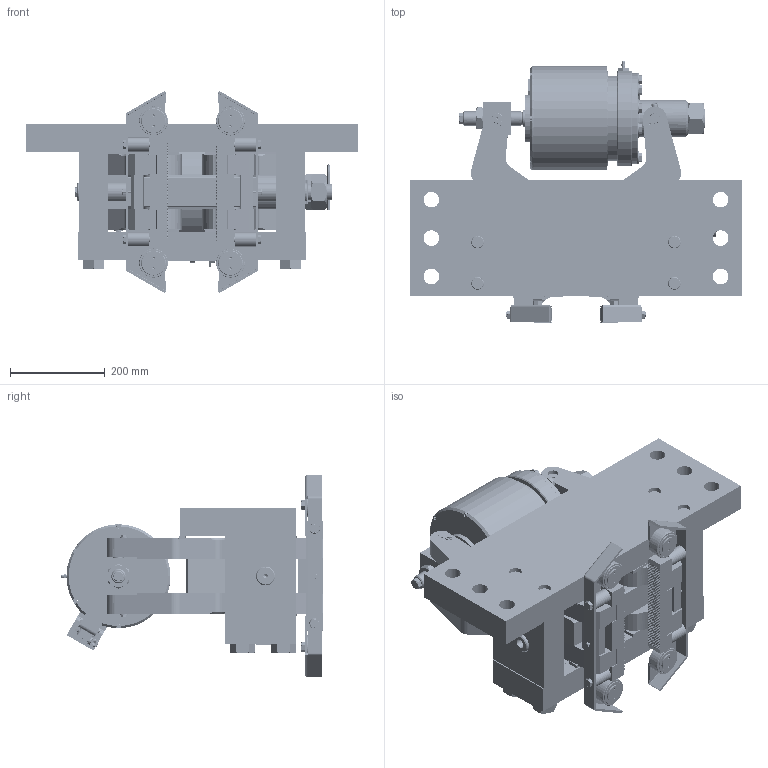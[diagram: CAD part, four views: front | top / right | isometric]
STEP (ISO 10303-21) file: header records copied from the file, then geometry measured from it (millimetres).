
FILE_DESCRIPTION((''),'2;1');
FILE_NAME('DR_088_FHM-500_ASM','2021-12-17T',('BOLS'),(''),'CREO PARAMETRIC BY PTC INC, 2018360','CREO PARAMETRIC BY PTC INC, 2018360','');
FILE_SCHEMA(('CONFIG_CONTROL_DESIGN'));
Products named in the file (145): RONDELLES_EPAISS_TYPE_L-3-SOLID; 12761-010_SEMELLE_ASSEMBL_-4356; 12729-416_GARNITURE_27_5_D-5741; 12729-412_AXE_ENTRAXE-2-SOLID1; 12729-040_OPTION_GALET-2_G-8817; 12761-020_BLOC_RONDELLES_-11911; 11547-031_PLAQUE_FIRME-1-SOLID1; 12729-040_OPTION_GALET-1_-14919; 12729-005_AXE-1-SOLID1; _CROU_HM-1-SOLID1; 12729-040_OPTION_GALET-1_-19365; 12761-020_BLOC_RONDELLES_-20736; 12729-040_OPTION_GALET-1_-22429; VIS_H__M6-2-SOLID1; 12729-016_PLAQUE_DE_GLISS-25231; 12729-413_VIS_DE_BUTEE-1-SOLID1; 12709-050_SUPPORT_CO-CR-1-SOLID; 12761-010_SEMELLE_ASSEMBL-29963; 12761-020_BLOC_RONDELLES_-31338; 12709-008_VIS_DE_REGLAGE--32994; 12761-020_BLOC_RONDELLES_-34370; 12318_ECROU_D_BLOCAGE-1_V-36077; 12729-040_OPTION_GALET-2_-37464; VIS_H_M10-1-SOLID1; INTERRUPTEUR_XCMD2111L1_CAB_0-1; 12761-020_BLOC_RONDELLES_-43597; 12729-040_OPTION_GALET-2_-44976; 12761-020_BLOC_RONDELLES_-48044; 12729-040_OPTION_GALET-2_-49428; 12729-040_OPTION_GALET-2_-51124; 12729-412_AXE_ENTRAXE-1-SOLID1; 12761-020_BLOC_RONDELLES_-55559; 12729-040_OPTION_GALET-2_-58613; 12729-040_OPTION_GALET-2_-60034; 12761-020_BLOC_RONDELLES_-61744; _CROU_H-7-SOLID1; 12729-040_OPTION_GALET-2_-64499; 12318_ECROU_D_BLOCAGE-1_GOUPILL; VIS_CHC__M4-2-SOLID1; 12729-040_OPTION_GALET-1_-69245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
Assembly tree (144 placements, depth 2):
  DR_088_FHM-500_ASM
    RONDELLES_EPAISS_TYPE_L-3-SOLID
    12761-010_SEMELLE_ASSEMBL_-4356
    12729-416_GARNITURE_27_5_D-5741
    12729-412_AXE_ENTRAXE-2-SOLID1
    12729-040_OPTION_GALET-2_G-8817
    12761-020_BLOC_RONDELLES_-11911
    11547-031_PLAQUE_FIRME-1-SOLID1
    12729-040_OPTION_GALET-1_-14919
    12729-005_AXE-1-SOLID1
    _CROU_HM-1-SOLID1
    12729-040_OPTION_GALET-1_-19365
    12761-020_BLOC_RONDELLES_-20736
    12729-040_OPTION_GALET-1_-22429
    VIS_H__M6-2-SOLID1
    12729-016_PLAQUE_DE_GLISS-25231
    12729-413_VIS_DE_BUTEE-1-SOLID1
    12709-050_SUPPORT_CO-CR-1-SOLID
    12761-010_SEMELLE_ASSEMBL-29963
    12761-020_BLOC_RONDELLES_-31338
    12709-008_VIS_DE_REGLAGE--32994
    12761-020_BLOC_RONDELLES_-34370
    12318_ECROU_D_BLOCAGE-1_V-36077
    12729-040_OPTION_GALET-2_-37464
    VIS_H_M10-1-SOLID1
    INTERRUPTEUR_XCMD2111L1_CAB_0-1
    12761-020_BLOC_RONDELLES_-43597
    12729-040_OPTION_GALET-2_-44976
    12761-020_BLOC_RONDELLES_-48044
    12729-040_OPTION_GALET-2_-49428
    12729-040_OPTION_GALET-2_-51124
    12729-412_AXE_ENTRAXE-1-SOLID1
    12761-020_BLOC_RONDELLES_-55559
    12729-040_OPTION_GALET-2_-58613
    12729-040_OPTION_GALET-2_-60034
    12761-020_BLOC_RONDELLES_-61744
    _CROU_H-7-SOLID1
    12729-040_OPTION_GALET-2_-64499
    12318_ECROU_D_BLOCAGE-1_GOUPILL
    VIS_CHC__M4-2-SOLID1
    12729-040_OPTION_GALET-1_-69245
    12761-020_BLOC_RONDELLES_-70591
    12729-411_SUPPORT_BUT_E_U-73635
    12318_ECROU_D_BLOCAGE-1_12318-1
    12761-020_BLOC_RONDELLES_-76401
    12729-040_OPTION_GALET-2_-76673
    12729-040_OPTION_GALET-2_-78075
    12729-040_OPTION_GALET-2_-81182
    12729-016_PLAQUE_DE_GLISS-84236
    12729-040_OPTION_GALET-1_-85641
    12761-020_BLOC_RONDELLES_-87328
    12761-020_BLOC_RONDELLES_-88671
    12729-040_OPTION_GALET-2_-91712
    12761-020_BLOC_RONDELLES_-93098
    12729-040_OPTION_GALET-1_-94751
    12318_ECROU_D_BLOCAGE-1_V-96114
    E3197
    12729-040_OPTION_GALET-2-100611
    31144_PI1_E1259
    12729-016_PLAQUE_DE_GLIS-103671
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Bounding box: 700 x 552.09 x 426.86 mm (x, y, z)
Volume: 30019147.5 mm3; surface area: 3227083.7 mm2
Topology: 144 solids, 144 shells, 7304 faces, 19224 edges, 12456 vertices
Faces by surface type: plane 5310, cylinder 1076, cone 794, torus 70, bspline 40, sphere 12, revolution 2
Entity records: 321917 total; most frequent: CARTESIAN_POINT 82671, ORIENTED_EDGE 38152, DIRECTION 34752, PRESENTATION_STYLE_ASSIGNMENT 19220, STYLED_ITEM 19220, CURVE_STYLE 19076, EDGE_CURVE 19076, VECTOR 13642
